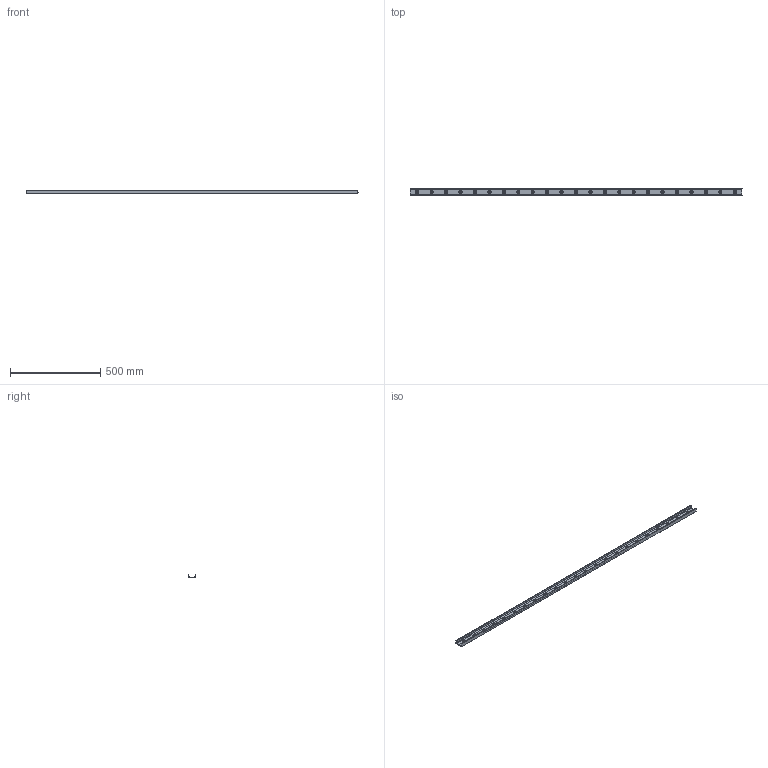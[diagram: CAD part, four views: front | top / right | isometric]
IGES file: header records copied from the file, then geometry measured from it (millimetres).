
Start section: SolidWorks IGES file using analytic representation for surfaces
Global section: file name: C:\Users\IanO\Desktop\43\L1943.ULC43_v2_20180121_IGES\L1943.ULC43-1840.igs; native system: SolidWorks 2017; preprocessor: SolidWorks 2017; author: IanO; date: 190121.084835; units: millimetre
Bounding box: 1840 x 43 x 21 mm (x, y, z)
Surface area: 288797.7 mm2 (no closed solid volume)
Topology: 0 solids, 0 shells, 141 faces, 3606 edges, 3606 vertices
Faces by surface type: revolution 105, bspline 36
